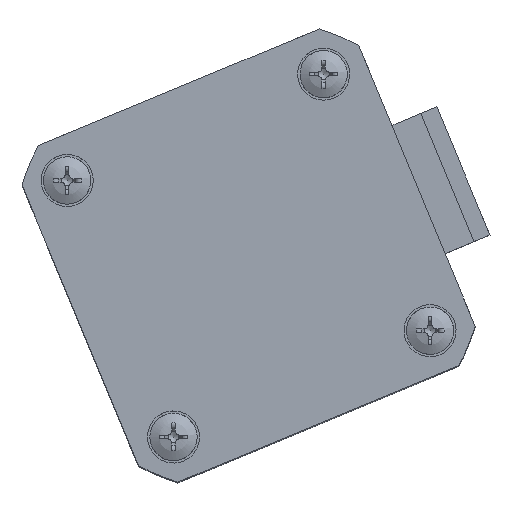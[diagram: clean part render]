
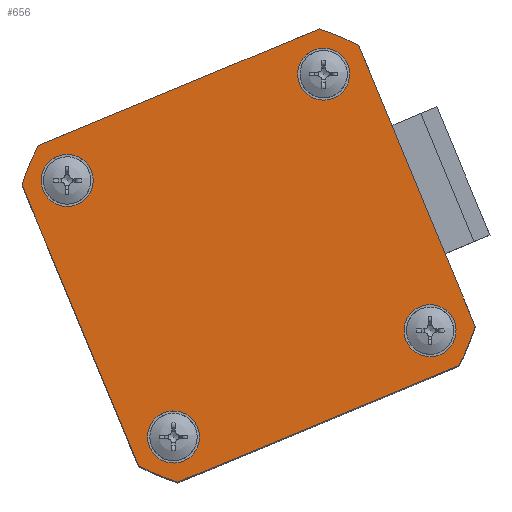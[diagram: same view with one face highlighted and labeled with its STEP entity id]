
A CAD part, top view. The second image highlights one B-rep face of the part: STEP entity #656.
In plain terms, the highlighted planar face has unit normal (0, 0, 1) as drawn and (0, 0, -1) by its records, which use the part's own axes.
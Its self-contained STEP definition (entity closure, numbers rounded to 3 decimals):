
#191=LINE('',#12636,#318);
#203=LINE('',#12660,#330);
#228=LINE('',#12711,#355);
#244=LINE('',#12744,#371);
#252=LINE('',#12767,#379);
#260=LINE('',#12979,#387);
#318=VECTOR('',#2734,1.);
#330=VECTOR('',#2746,1.);
#355=VECTOR('',#2781,1.);
#371=VECTOR('',#2799,1.);
#379=VECTOR('',#2821,1.);
#387=VECTOR('',#2889,1.);
#560=FACE_BOUND('',#1003,.T.);
#561=FACE_BOUND('',#1004,.T.);
#562=FACE_BOUND('',#1005,.T.);
#563=FACE_BOUND('',#1006,.T.);
#564=FACE_BOUND('',#1007,.T.);
#656=ADVANCED_FACE('',(#560,#561,#562,#563,#564),#790,.F.);
#790=PLANE('',#2497);
#1003=EDGE_LOOP('',(#1325));
#1004=EDGE_LOOP('',(#1326));
#1005=EDGE_LOOP('',(#1327));
#1006=EDGE_LOOP('',(#1328));
#1007=EDGE_LOOP('',(#1329,#1330,#1331,#1332,#1333,#1334,#1335,#1336,#1337,
#1338));
#1325=ORIENTED_EDGE('',*,*,#2142,.T.);
#1326=ORIENTED_EDGE('',*,*,#2143,.T.);
#1327=ORIENTED_EDGE('',*,*,#2144,.T.);
#1328=ORIENTED_EDGE('',*,*,#2145,.T.);
#1329=ORIENTED_EDGE('',*,*,#2108,.F.);
#1330=ORIENTED_EDGE('',*,*,#2117,.F.);
#1331=ORIENTED_EDGE('',*,*,#2043,.F.);
#1332=ORIENTED_EDGE('',*,*,#2146,.F.);
#1333=ORIENTED_EDGE('',*,*,#2055,.F.);
#1334=ORIENTED_EDGE('',*,*,#2125,.F.);
#1335=ORIENTED_EDGE('',*,*,#2080,.F.);
#1336=ORIENTED_EDGE('',*,*,#2123,.F.);
#1337=ORIENTED_EDGE('',*,*,#2096,.F.);
#1338=ORIENTED_EDGE('',*,*,#2119,.F.);
#1816=VERTEX_POINT('',#12635);
#1817=VERTEX_POINT('',#12637);
#1828=VERTEX_POINT('',#12659);
#1829=VERTEX_POINT('',#12661);
#1849=VERTEX_POINT('',#12710);
#1850=VERTEX_POINT('',#12712);
#1865=VERTEX_POINT('',#12743);
#1866=VERTEX_POINT('',#12745);
#1873=VERTEX_POINT('',#12766);
#1874=VERTEX_POINT('',#12768);
#1892=VERTEX_POINT('',#12972);
#1893=VERTEX_POINT('',#12974);
#1894=VERTEX_POINT('',#12976);
#1895=VERTEX_POINT('',#12978);
#2043=EDGE_CURVE('',#1816,#1817,#191,.T.);
#2055=EDGE_CURVE('',#1828,#1829,#203,.T.);
#2080=EDGE_CURVE('',#1849,#1850,#228,.T.);
#2096=EDGE_CURVE('',#1865,#1866,#244,.T.);
#2108=EDGE_CURVE('',#1873,#1874,#252,.T.);
#2117=EDGE_CURVE('',#1817,#1873,#2341,.T.);
#2119=EDGE_CURVE('',#1874,#1865,#2343,.T.);
#2123=EDGE_CURVE('',#1866,#1849,#2347,.T.);
#2125=EDGE_CURVE('',#1850,#1828,#2349,.T.);
#2142=EDGE_CURVE('',#1892,#1892,#2358,.T.);
#2143=EDGE_CURVE('',#1893,#1893,#2359,.T.);
#2144=EDGE_CURVE('',#1894,#1894,#2360,.T.);
#2145=EDGE_CURVE('',#1895,#1895,#2361,.T.);
#2146=EDGE_CURVE('',#1829,#1816,#260,.T.);
#2341=CIRCLE('',#2469,27.35);
#2343=CIRCLE('',#2472,27.35);
#2347=CIRCLE('',#2478,27.35);
#2349=CIRCLE('',#2481,27.35);
#2358=CIRCLE('',#2493,3.);
#2359=CIRCLE('',#2494,3.);
#2360=CIRCLE('',#2495,3.);
#2361=CIRCLE('',#2496,3.);
#2469=AXIS2_PLACEMENT_3D('',#12784,#2833,#2834);
#2472=AXIS2_PLACEMENT_3D('',#12787,#2839,#2840);
#2478=AXIS2_PLACEMENT_3D('',#12793,#2851,#2852);
#2481=AXIS2_PLACEMENT_3D('',#12796,#2857,#2858);
#2493=AXIS2_PLACEMENT_3D('',#12971,#2881,#2882);
#2494=AXIS2_PLACEMENT_3D('',#12973,#2883,#2884);
#2495=AXIS2_PLACEMENT_3D('',#12975,#2885,#2886);
#2496=AXIS2_PLACEMENT_3D('',#12977,#2887,#2888);
#2497=AXIS2_PLACEMENT_3D('',#12980,#2890,#2891);
#2734=DIRECTION('',(0.,-1.,0.));
#2746=DIRECTION('',(0.,-1.,0.));
#2781=DIRECTION('',(-1.,0.,0.));
#2799=DIRECTION('',(0.,1.,0.));
#2821=DIRECTION('',(1.,0.,0.));
#2833=DIRECTION('',(0.,0.,1.));
#2834=DIRECTION('',(1.,0.,0.));
#2839=DIRECTION('',(0.,0.,1.));
#2840=DIRECTION('',(1.,0.,0.));
#2851=DIRECTION('',(0.,0.,1.));
#2852=DIRECTION('',(1.,0.,0.));
#2857=DIRECTION('',(0.,0.,1.));
#2858=DIRECTION('',(1.,0.,0.));
#2881=DIRECTION('',(0.,0.,1.));
#2882=DIRECTION('',(0.,1.,0.));
#2883=DIRECTION('',(0.,0.,1.));
#2884=DIRECTION('',(1.,0.,0.));
#2885=DIRECTION('',(0.,0.,1.));
#2886=DIRECTION('',(0.,-1.,0.));
#2887=DIRECTION('',(0.,0.,1.));
#2888=DIRECTION('',(-1.,0.,0.));
#2889=DIRECTION('',(0.,-1.,0.));
#2890=DIRECTION('',(0.,0.,1.));
#2891=DIRECTION('',(1.,0.,0.));
#12635=CARTESIAN_POINT('',(-21.,-8.478,0.));
#12636=CARTESIAN_POINT('',(-21.,17.522,0.));
#12637=CARTESIAN_POINT('',(-21.,-17.522,0.));
#12659=CARTESIAN_POINT('',(-21.,17.522,0.));
#12660=CARTESIAN_POINT('',(-21.,17.522,0.));
#12661=CARTESIAN_POINT('',(-21.,7.522,0.));
#12710=CARTESIAN_POINT('',(17.522,21.,0.));
#12711=CARTESIAN_POINT('',(17.522,21.,0.));
#12712=CARTESIAN_POINT('',(-17.522,21.,0.));
#12743=CARTESIAN_POINT('',(21.,-17.522,0.));
#12744=CARTESIAN_POINT('',(21.,-17.522,0.));
#12745=CARTESIAN_POINT('',(21.,17.522,0.));
#12766=CARTESIAN_POINT('',(-17.522,-21.,0.));
#12767=CARTESIAN_POINT('',(-17.522,-21.,0.));
#12768=CARTESIAN_POINT('',(17.522,-21.,0.));
#12784=CARTESIAN_POINT('',(0.,0.,0.));
#12787=CARTESIAN_POINT('',(0.,0.,0.));
#12793=CARTESIAN_POINT('',(0.,0.,0.));
#12796=CARTESIAN_POINT('',(0.,0.,0.));
#12971=CARTESIAN_POINT('',(-16.,16.,0.));
#12972=CARTESIAN_POINT('',(-16.,19.,0.));
#12973=CARTESIAN_POINT('',(16.,16.,0.));
#12974=CARTESIAN_POINT('',(19.,16.,0.));
#12975=CARTESIAN_POINT('',(16.,-16.,0.));
#12976=CARTESIAN_POINT('',(16.,-19.,0.));
#12977=CARTESIAN_POINT('',(-16.,-16.,0.));
#12978=CARTESIAN_POINT('',(-19.,-16.,0.));
#12979=CARTESIAN_POINT('',(-21.,17.522,0.));
#12980=CARTESIAN_POINT('',(0.,0.,0.));
